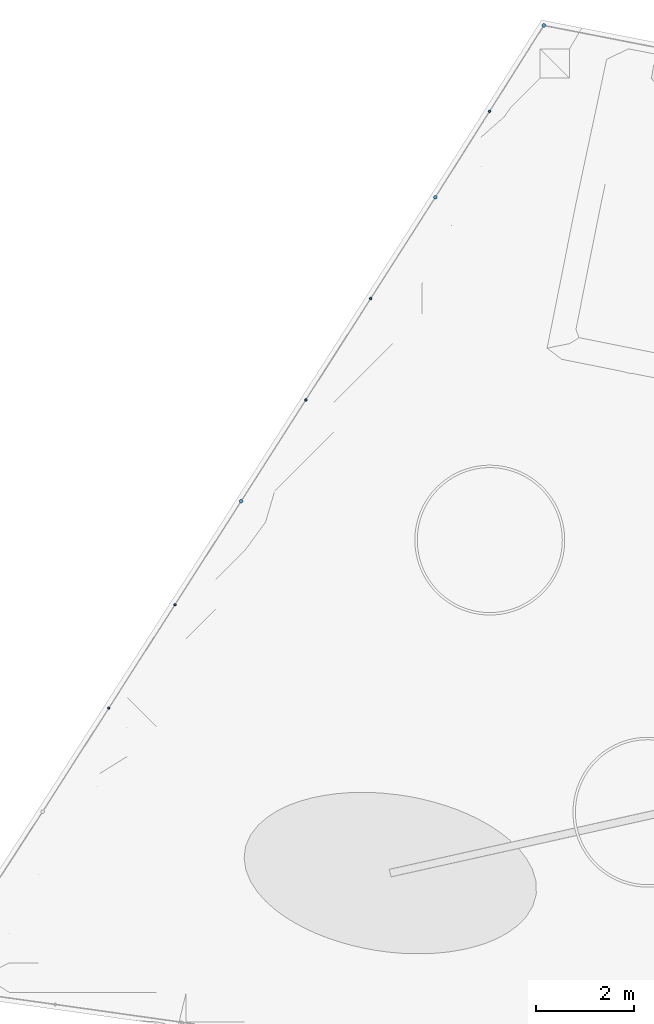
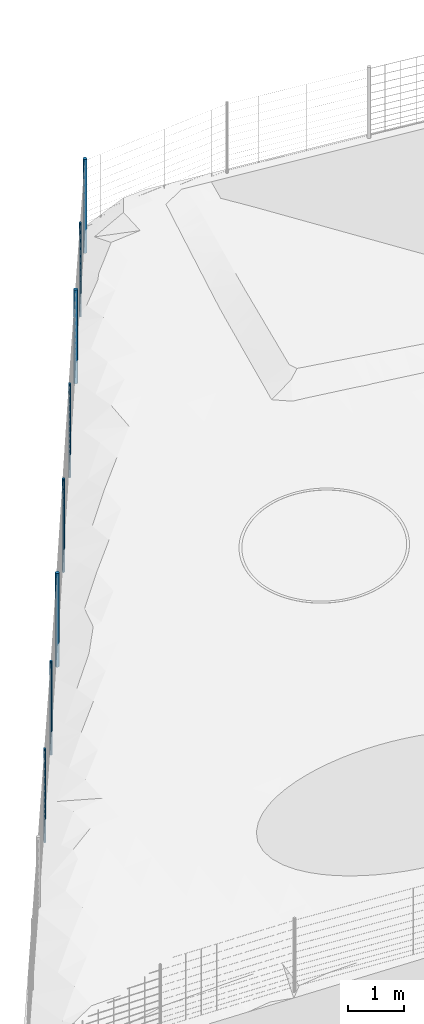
# Not in any storey, part 3 of 72: 8 members.
"""IFC4 model written with IfcOpenShell, lengths in metres."""

from ifc_helpers import new_model, si_unit, direction, frame, origin_with_axes, place, context, subcontext, project, spatial, circle, extrude, material, material_profile, profile_set, profile_usage, type_object, element, save


model = new_model("IFC4")

# Units and contexts
model_context = context("Model", 3, precision=1e-05, world=origin_with_axes(), true_north=direction((0.0, 1.0)))
body_context = subcontext(model_context, "Body", "Model", "MODEL_VIEW")
ifc_project = project(units=[si_unit("AREAUNIT", "SQUARE_METRE"), si_unit("VOLUMEUNIT", "CUBIC_METRE"), si_unit("LENGTHUNIT", "METRE")], contexts=[model_context])

# Site
site_placement = place(None, origin_with_axes())
site = spatial("IfcSite", under=ifc_project, at=site_placement, Name="Lares · Rua das Mercês · artigo 4771")

# Members
ifc_material = material(Name="Aço galvanizado / Stahl verzinkt", Category="steel")
ifc_material_profile_1 = material_profile(ifc_material, circle(Radius=0.038))
ifc_profile_set_1 = profile_set([ifc_material_profile_1], Name="D0.076")
ifc_profile_usage_1 = profile_usage(ifc_profile_set_1)
member_type_1 = type_object("IfcMemberType", Name="D0.076 / galvanized", PredefinedType="NOTDEFINED", material=ifc_profile_set_1)
member_1_placement = place(site_placement, frame((-5.5880570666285, 14.8335193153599, 11.1215277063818), z_axis=(0.0, 0.0, 1.0), x_axis=(1.0, -1.03767253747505e-17, 0.0)))
element("IfcMember", 1, at=member_1_placement, inside=site, type_object=member_type_1, material=ifc_profile_usage_1, Name="Vedação · poste de canto/topo", PredefinedType="POST", context=body_context, shape_type="SweptSolid", body=[
    extrude(circle(Radius=0.038), origin_with_axes(), (0.0, 0.0, 1.0), 2.05),
])
ifc_profile_usage_2 = profile_usage(ifc_profile_set_1)
member_2_placement = place(site_placement, frame((-1.63608968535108, 21.0185812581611, 12.175628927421), z_axis=(0.0, 0.0, 1.0), x_axis=(1.0, -1.03767253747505e-17, 0.0)))
element("IfcMember", 2, at=member_2_placement, inside=site, type_object=member_type_1, material=ifc_profile_usage_2, Name="Vedação · poste de canto/topo", PredefinedType="POST", context=body_context, shape_type="SweptSolid", body=[
    extrude(circle(Radius=0.038), origin_with_axes(), (0.0, 0.0, 1.0), 2.05),
])
ifc_profile_usage_3 = profile_usage(ifc_profile_set_1)
member_3_placement = place(site_placement, frame((0.571497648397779, 24.5144197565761, 12.1378933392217), z_axis=(0.0, 0.0, 1.0), x_axis=(1.0, -1.03767253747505e-17, 0.0)))
element("IfcMember", 3, at=member_3_placement, inside=site, type_object=member_type_1, material=ifc_profile_usage_3, Name="Vedação · poste de canto/topo", PredefinedType="POST", context=body_context, shape_type="SweptSolid", body=[
    extrude(circle(Radius=0.038), origin_with_axes(), (0.0, 0.0, 1.0), 2.05),
])
ifc_material_profile_2 = material_profile(ifc_material, circle(Radius=0.024))
ifc_profile_set_2 = profile_set([ifc_material_profile_2], Name="D0.048")
ifc_profile_usage_4 = profile_usage(ifc_profile_set_2)
member_type_2 = type_object("IfcMemberType", Name="D0.048 / galvanized", PredefinedType="NOTDEFINED", material=ifc_profile_set_2)
member_4_placement = place(site_placement, frame((-8.28070242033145, 10.6235441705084, 10.7738426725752), z_axis=(0.0, 0.0, 1.0), x_axis=(1.0, -1.03767253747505e-17, 0.0)))
element("IfcMember", 4, at=member_4_placement, inside=site, type_object=member_type_2, material=ifc_profile_usage_4, Name="Vedação · poste intermédio", PredefinedType="POST", context=body_context, shape_type="SweptSolid", body=[
    extrude(circle(Radius=0.024), origin_with_axes(), (0.0, 0.0, 1.0), 2.05),
])
ifc_profile_usage_5 = profile_usage(ifc_profile_set_2)
member_5_placement = place(site_placement, frame((-6.93437974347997, 12.7285317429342, 10.9374828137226), z_axis=(0.0, 0.0, 1.0), x_axis=(1.0, -1.03767253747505e-17, 0.0)))
element("IfcMember", 5, at=member_5_placement, inside=site, type_object=member_type_2, material=ifc_profile_usage_5, Name="Vedação · poste intermédio", PredefinedType="POST", context=body_context, shape_type="SweptSolid", body=[
    extrude(circle(Radius=0.024), origin_with_axes(), (0.0, 0.0, 1.0), 2.05),
])
ifc_profile_usage_6 = profile_usage(ifc_profile_set_2)
member_6_placement = place(site_placement, frame((-4.27073460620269, 16.895206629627, 11.4663853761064), z_axis=(0.0, 0.0, 1.0), x_axis=(1.0, -1.03767253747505e-17, 0.0)))
element("IfcMember", 6, at=member_6_placement, inside=site, type_object=member_type_2, material=ifc_profile_usage_6, Name="Vedação · poste intermédio", PredefinedType="POST", context=body_context, shape_type="SweptSolid", body=[
    extrude(circle(Radius=0.024), origin_with_axes(), (0.0, 0.0, 1.0), 2.05),
])
ifc_profile_usage_7 = profile_usage(ifc_profile_set_2)
member_7_placement = place(site_placement, frame((-2.95341214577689, 18.956893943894, 11.8285673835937), z_axis=(0.0, 0.0, 1.0), x_axis=(1.0, -1.03767253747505e-17, 0.0)))
element("IfcMember", 7, at=member_7_placement, inside=site, type_object=member_type_2, material=ifc_profile_usage_7, Name="Vedação · poste intermédio", PredefinedType="POST", context=body_context, shape_type="SweptSolid", body=[
    extrude(circle(Radius=0.024), origin_with_axes(), (0.0, 0.0, 1.0), 2.05),
])
ifc_profile_usage_8 = profile_usage(ifc_profile_set_2)
member_8_placement = place(site_placement, frame((-0.532296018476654, 22.7665005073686, 12.1852677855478), z_axis=(0.0, 0.0, 1.0), x_axis=(1.0, -1.03767253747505e-17, 0.0)))
element("IfcMember", 8, at=member_8_placement, inside=site, type_object=member_type_2, material=ifc_profile_usage_8, Name="Vedação · poste intermédio", PredefinedType="POST", context=body_context, shape_type="SweptSolid", body=[
    extrude(circle(Radius=0.024), origin_with_axes(), (0.0, 0.0, 1.0), 2.05),
])

save(model, "model.ifc")
